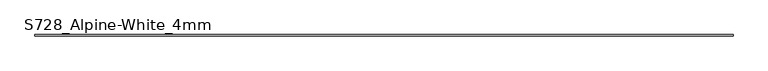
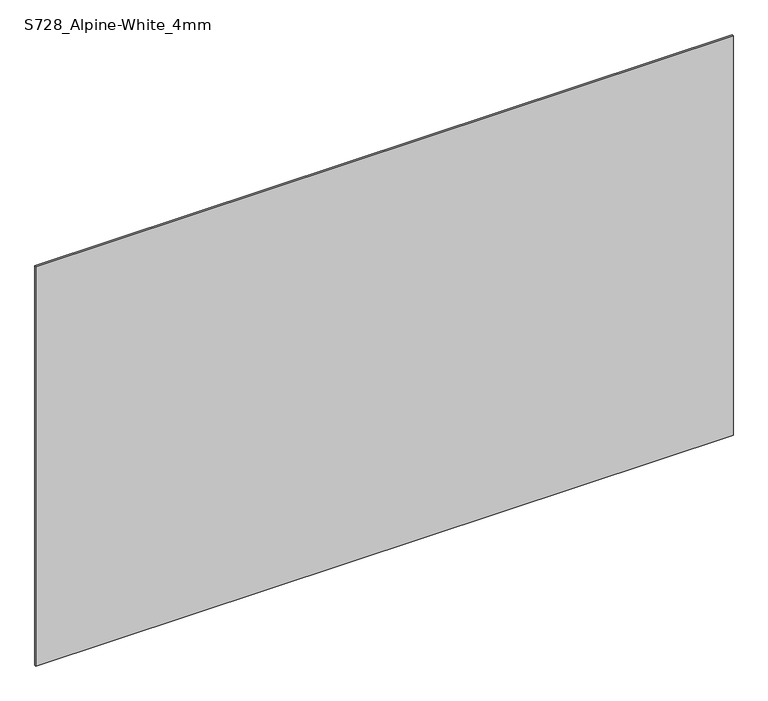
"""IFC4 building model written with IfcOpenShell, lengths in millimetres: plate geometry, Curtain-Panels_Outdoor-Material_HI-MACS_Solids : S728_Alpine-White_4mm."""

from ifc_helpers import new_model, si_unit, origin, origin_with_axes, place, context, project, spatial, polyline, outline, extrude, source, transform, mapped, element, save


def s728_alpine_white_4mm_8b879464(model_context):
    return source(origin(), model_context, "Body", "SweptSolid", [
        extrude(outline(polyline([(1245.0, 2.0), (1245.0, -2.0), (-1245.0, -2.0), (-1245.0, 2.0), (1245.0, 2.0)])), origin_with_axes(), (0.0, 0.0, 1.0), 1507.8728994),
    ])


if __name__ == "__main__":
    model = new_model("IFC4")
    model_context = context("Model", 3, world=origin())
    ifc_project = project(units=[si_unit("LENGTHUNIT", "METRE", prefix="MILLI")], contexts=[model_context])
    site = spatial("IfcSite", under=ifc_project)
    building = spatial("IfcBuilding", under=site)
    placement = place(None, origin())
    s728_alpine_white_4mm_shape = s728_alpine_white_4mm_8b879464(model_context)
    element("IfcPlate", 1, ObjectType="Curtain-Panels_Outdoor-Material_HI-MACS_Solids : S728_Alpine-White_4mm", at=placement, inside=building, context=model_context, shape_type="MappedRepresentation", body=[
        mapped(s728_alpine_white_4mm_shape, transform((0.0, 0.0, 0.0), x_axis=(1.0, 0.0, 0.0), y_axis=(0.0, 1.0, 0.0), z_axis=(0.0, 0.0, 1.0))),
    ])
    save(model, "model.ifc")
